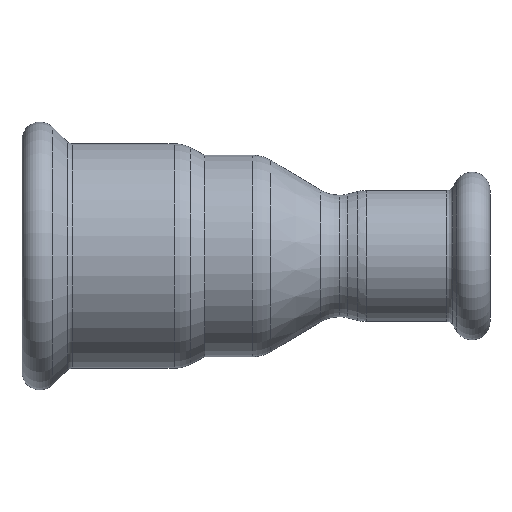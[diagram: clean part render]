
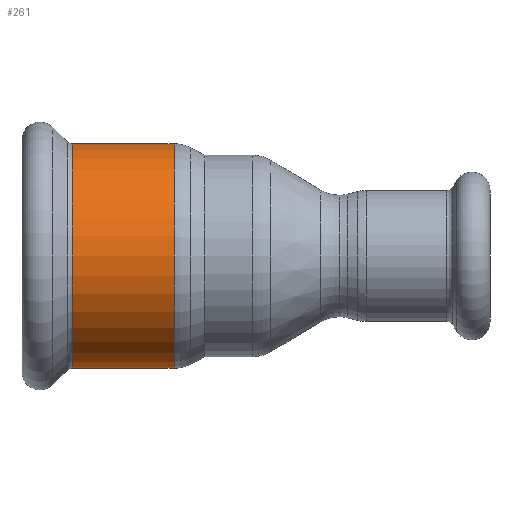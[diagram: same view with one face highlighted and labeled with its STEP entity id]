
A CAD part, front view. The second image highlights one B-rep face of the part: STEP entity #261.
In plain terms, the highlighted cylindrical face has radius 15.6 mm (diameter 31.2 mm), a partial arc.
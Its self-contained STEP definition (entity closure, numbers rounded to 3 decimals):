
#48 = VERTEX_POINT ( 'NONE', #2964 ) ;
#60 = DIRECTION ( 'NONE',  ( -1., 0., 0. ) ) ;
#142 = CIRCLE ( 'NONE', #909, 15.6 ) ;
#184 = DIRECTION ( 'NONE',  ( 0., 0., 1. ) ) ;
#238 = ORIENTED_EDGE ( 'NONE', *, *, #637, .T. ) ;
#261 = ADVANCED_FACE ( 'NONE', ( #1943 ), #1001, .T. ) ;
#299 = LINE ( 'NONE', #1747, #894 ) ;
#489 = DIRECTION ( 'NONE',  ( 1., 0., 0. ) ) ;
#637 = EDGE_CURVE ( 'NONE', #48, #1689, #1135, .T. ) ;
#820 = CARTESIAN_POINT ( 'NONE',  ( -44.93, 0., 0. ) ) ;
#851 = CARTESIAN_POINT ( 'NONE',  ( -11.566, 0., 0. ) ) ;
#894 = VECTOR ( 'NONE', #60, 1000. ) ;
#909 = AXIS2_PLACEMENT_3D ( 'NONE', #851, #2739, #2717 ) ;
#1001 = CYLINDRICAL_SURFACE ( 'NONE', #2327, 15.6 ) ;
#1069 = CARTESIAN_POINT ( 'NONE',  ( -25.715, 0., -15.6 ) ) ;
#1135 = CIRCLE ( 'NONE', #2843, 15.6 ) ;
#1149 = CARTESIAN_POINT ( 'NONE',  ( -25.715, 0., 0. ) ) ;
#1174 = DIRECTION ( 'NONE',  ( 0., 0., 1. ) ) ;
#1454 = ORIENTED_EDGE ( 'NONE', *, *, #1897, .F. ) ;
#1499 = EDGE_CURVE ( 'NONE', #2812, #48, #2120, .T. ) ;
#1573 = ORIENTED_EDGE ( 'NONE', *, *, #2806, .T. ) ;
#1576 = CARTESIAN_POINT ( 'NONE',  ( -11.566, 0., 15.6 ) ) ;
#1582 = ORIENTED_EDGE ( 'NONE', *, *, #1499, .T. ) ;
#1661 = EDGE_LOOP ( 'NONE', ( #1454, #1573, #1582, #238 ) ) ;
#1689 = VERTEX_POINT ( 'NONE', #1069 ) ;
#1747 = CARTESIAN_POINT ( 'NONE',  ( -44.93, 0., -15.6 ) ) ;
#1897 = EDGE_CURVE ( 'NONE', #2027, #1689, #299, .T. ) ;
#1943 = FACE_OUTER_BOUND ( 'NONE', #1661, .T. ) ;
#1989 = DIRECTION ( 'NONE',  ( -1., 0., 0. ) ) ;
#2027 = VERTEX_POINT ( 'NONE', #2110 ) ;
#2078 = CARTESIAN_POINT ( 'NONE',  ( -44.93, 0., 15.6 ) ) ;
#2110 = CARTESIAN_POINT ( 'NONE',  ( -11.566, 0., -15.6 ) ) ;
#2120 = LINE ( 'NONE', #2078, #2798 ) ;
#2327 = AXIS2_PLACEMENT_3D ( 'NONE', #820, #1989, #184 ) ;
#2717 = DIRECTION ( 'NONE',  ( 0., 0., -1. ) ) ;
#2739 = DIRECTION ( 'NONE',  ( -1., 0., 0. ) ) ;
#2781 = DIRECTION ( 'NONE',  ( -1., 0., 0. ) ) ;
#2798 = VECTOR ( 'NONE', #2781, 1000. ) ;
#2806 = EDGE_CURVE ( 'NONE', #2027, #2812, #142, .T. ) ;
#2812 = VERTEX_POINT ( 'NONE', #1576 ) ;
#2843 = AXIS2_PLACEMENT_3D ( 'NONE', #1149, #489, #1174 ) ;
#2964 = CARTESIAN_POINT ( 'NONE',  ( -25.715, 0., 15.6 ) ) ;
